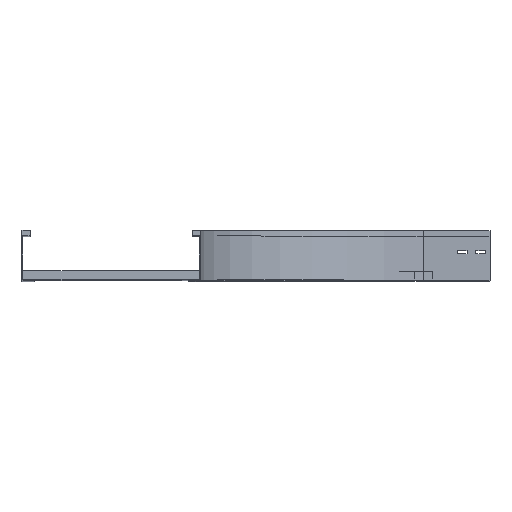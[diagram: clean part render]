
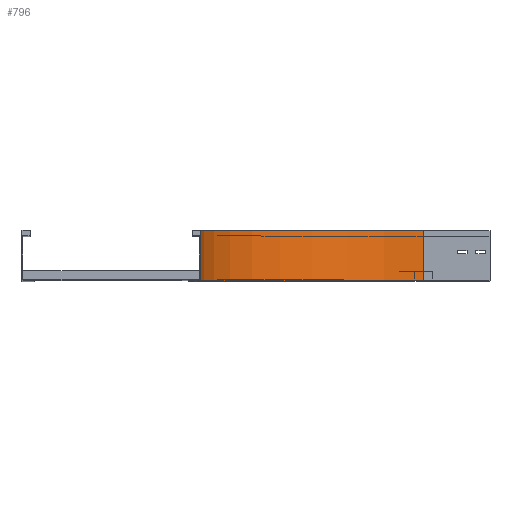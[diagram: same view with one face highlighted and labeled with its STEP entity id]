
A CAD part, top view. The second image highlights one B-rep face of the part: STEP entity #796.
In plain terms, the highlighted cylindrical face has radius 500 mm (diameter 1000 mm), a partial arc.
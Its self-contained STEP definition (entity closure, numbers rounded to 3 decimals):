
#118 = EDGE_CURVE ( 'NONE', #1092, #4126, #2883, .T. ) ;
#139 = AXIS2_PLACEMENT_3D ( 'NONE', #3000, #1265, #1680 ) ;
#173 = CARTESIAN_POINT ( 'NONE',  ( 500., 0., -650. ) ) ;
#321 = DIRECTION ( 'NONE',  ( 0., -1., 0. ) ) ;
#444 = CARTESIAN_POINT ( 'NONE',  ( 0., 112.5, -150. ) ) ;
#532 = EDGE_CURVE ( 'NONE', #3433, #1778, #3140, .T. ) ;
#545 = CARTESIAN_POINT ( 'NONE',  ( 0., 0., -150. ) ) ;
#608 = ORIENTED_EDGE ( 'NONE', *, *, #532, .T. ) ;
#629 = VECTOR ( 'NONE', #798, 1000. ) ;
#714 = ORIENTED_EDGE ( 'NONE', *, *, #3942, .F. ) ;
#796 = ADVANCED_FACE ( 'NONE', ( #1988 ), #2362, .F. ) ;
#798 = DIRECTION ( 'NONE',  ( 0., 1., 0. ) ) ;
#899 = CARTESIAN_POINT ( 'NONE',  ( 0., 0., -150. ) ) ;
#1092 = VERTEX_POINT ( 'NONE', #899 ) ;
#1265 = DIRECTION ( 'NONE',  ( 0., -1., 0. ) ) ;
#1308 = CIRCLE ( 'NONE', #3728, 500. ) ;
#1389 = AXIS2_PLACEMENT_3D ( 'NONE', #2989, #321, #3918 ) ;
#1633 = ORIENTED_EDGE ( 'NONE', *, *, #118, .F. ) ;
#1680 = DIRECTION ( 'NONE',  ( -1., 0., 0. ) ) ;
#1778 = VERTEX_POINT ( 'NONE', #3744 ) ;
#1894 = DIRECTION ( 'NONE',  ( 0., -1., 0. ) ) ;
#1988 = FACE_OUTER_BOUND ( 'NONE', #3376, .T. ) ;
#2003 = CIRCLE ( 'NONE', #139, 500. ) ;
#2275 = DIRECTION ( 'NONE',  ( 0., 1., 0. ) ) ;
#2362 = CYLINDRICAL_SURFACE ( 'NONE', #1389, 500. ) ;
#2883 = LINE ( 'NONE', #545, #3938 ) ;
#2887 = ORIENTED_EDGE ( 'NONE', *, *, #4000, .T. ) ;
#2989 = CARTESIAN_POINT ( 'NONE',  ( 500., 0., -150. ) ) ;
#3000 = CARTESIAN_POINT ( 'NONE',  ( 500., 0., -150. ) ) ;
#3014 = CARTESIAN_POINT ( 'NONE',  ( 500., 0., -650. ) ) ;
#3140 = LINE ( 'NONE', #173, #629 ) ;
#3216 = DIRECTION ( 'NONE',  ( -1., 0., 0. ) ) ;
#3376 = EDGE_LOOP ( 'NONE', ( #714, #1633, #2887, #608 ) ) ;
#3433 = VERTEX_POINT ( 'NONE', #3014 ) ;
#3728 = AXIS2_PLACEMENT_3D ( 'NONE', #3843, #1894, #3216 ) ;
#3744 = CARTESIAN_POINT ( 'NONE',  ( 500., 112.5, -650. ) ) ;
#3843 = CARTESIAN_POINT ( 'NONE',  ( 500., 112.5, -150. ) ) ;
#3918 = DIRECTION ( 'NONE',  ( 0., 0., -1. ) ) ;
#3938 = VECTOR ( 'NONE', #2275, 1000. ) ;
#3942 = EDGE_CURVE ( 'NONE', #4126, #1778, #1308, .T. ) ;
#4000 = EDGE_CURVE ( 'NONE', #1092, #3433, #2003, .T. ) ;
#4126 = VERTEX_POINT ( 'NONE', #444 ) ;
